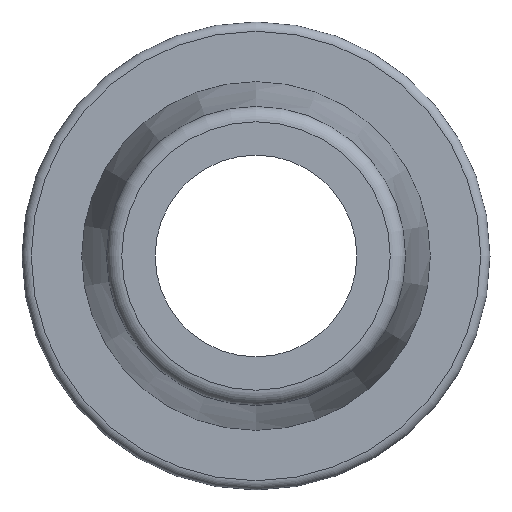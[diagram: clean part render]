
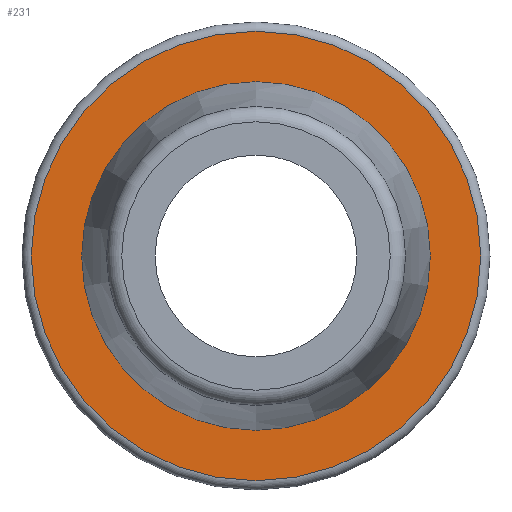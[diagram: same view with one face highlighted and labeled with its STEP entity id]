
A CAD part, front view. The second image highlights one B-rep face of the part: STEP entity #231.
In plain terms, the highlighted planar face has unit normal (0, -1, 0).
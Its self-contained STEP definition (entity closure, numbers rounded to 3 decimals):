
#13 = CARTESIAN_POINT ( 'NONE',  ( 0., 0., 0. ) ) ;
#15 = FACE_OUTER_BOUND ( 'NONE', #61, .T. ) ;
#16 = DIRECTION ( 'NONE',  ( 0., 1., 0. ) ) ;
#35 = DIRECTION ( 'NONE',  ( 0., 0., 1. ) ) ;
#43 = EDGE_LOOP ( 'NONE', ( #86 ) ) ;
#45 = AXIS2_PLACEMENT_3D ( 'NONE', #13, #16, #35 ) ;
#50 = DIRECTION ( 'NONE',  ( 0., 0., -1. ) ) ;
#61 = EDGE_LOOP ( 'NONE', ( #243 ) ) ;
#70 = CARTESIAN_POINT ( 'NONE',  ( 0., 0., 9. ) ) ;
#80 = CARTESIAN_POINT ( 'NONE',  ( 0., 0., 5. ) ) ;
#86 = ORIENTED_EDGE ( 'NONE', *, *, #121, .T. ) ;
#99 = FACE_BOUND ( 'NONE', #43, .T. ) ;
#100 = PLANE ( 'NONE',  #227 ) ;
#103 = EDGE_CURVE ( 'NONE', #262, #262, #261, .T. ) ;
#121 = EDGE_CURVE ( 'NONE', #132, #132, #126, .T. ) ;
#126 = CIRCLE ( 'NONE', #45, 5. ) ;
#132 = VERTEX_POINT ( 'NONE', #80 ) ;
#158 = DIRECTION ( 'NONE',  ( 0., -1., 0. ) ) ;
#180 = AXIS2_PLACEMENT_3D ( 'NONE', #267, #203, #50 ) ;
#186 = DIRECTION ( 'NONE',  ( 0., 0., -1. ) ) ;
#203 = DIRECTION ( 'NONE',  ( 0., -1., 0. ) ) ;
#227 = AXIS2_PLACEMENT_3D ( 'NONE', #70, #158, #186 ) ;
#231 = ADVANCED_FACE ( 'NONE', ( #15, #99 ), #100, .T. ) ;
#243 = ORIENTED_EDGE ( 'NONE', *, *, #103, .T. ) ;
#261 = CIRCLE ( 'NONE', #180, 7.24 ) ;
#262 = VERTEX_POINT ( 'NONE', #278 ) ;
#267 = CARTESIAN_POINT ( 'NONE',  ( 0., 0., 0. ) ) ;
#278 = CARTESIAN_POINT ( 'NONE',  ( 0., 0., -7.24 ) ) ;
